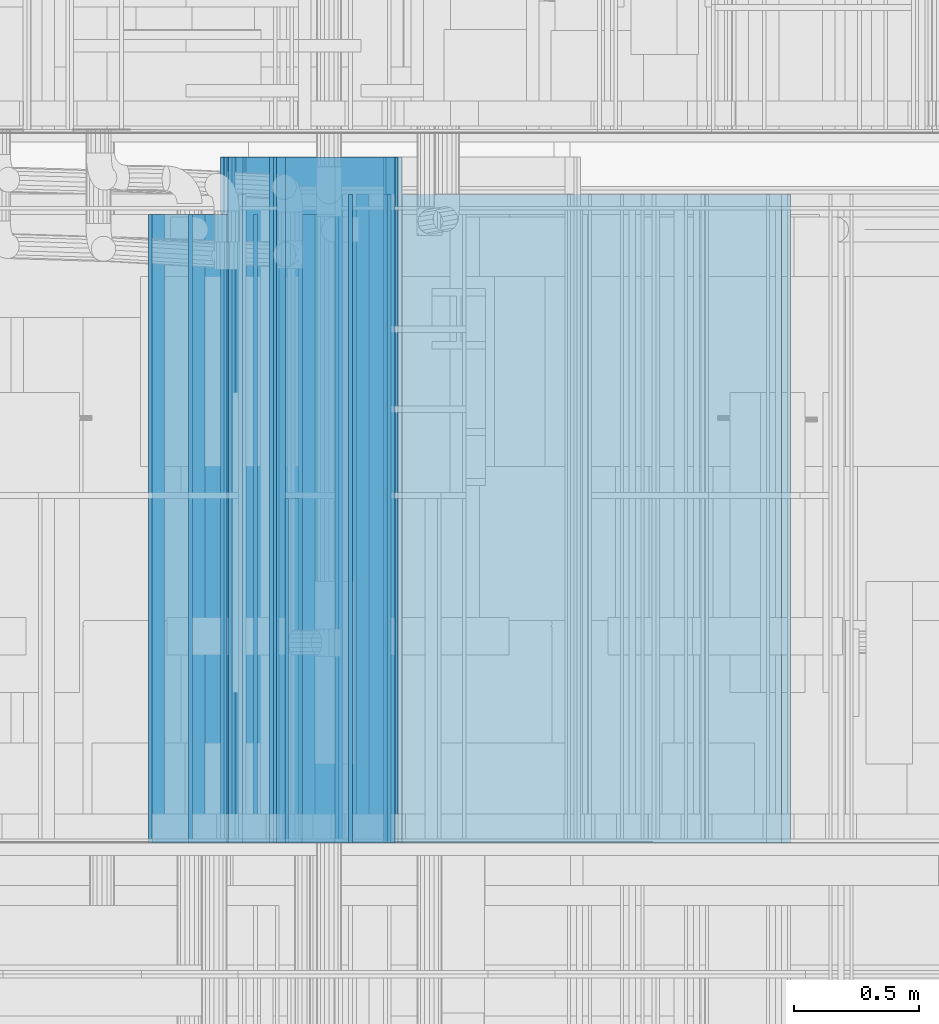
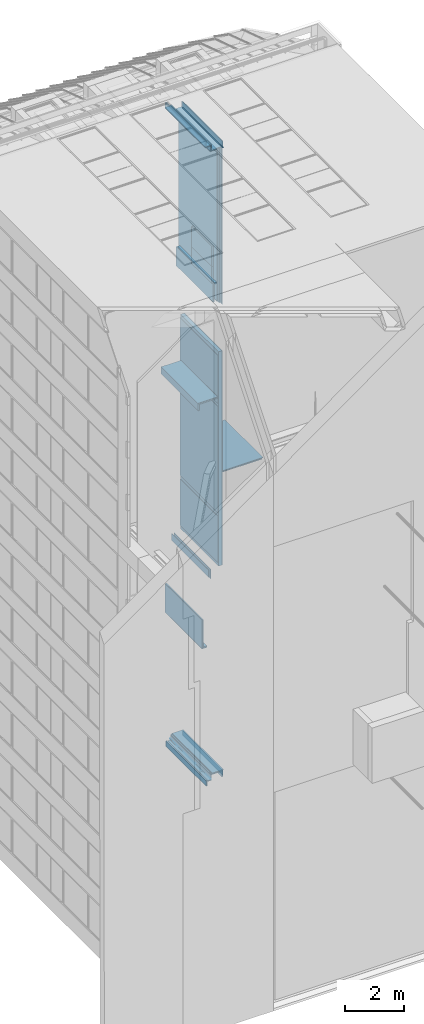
# One storey, part 119 of 583: 60 building element parts, 22 elements without a shape of their own.
"""IFC2X3 building model written with IfcOpenShell, lengths in metres."""

from ifc_helpers import new_model, entity, si_unit, converted_unit, derived_unit, money_unit, direction, frame, frame_2d, origin_with_axes, place, context, subcontext, project, spatial, polyline, rectangle, outline, extrude, material, type_object, element, aggregate, save


model = new_model("IFC2X3")

# Units and contexts
model_context = context("Model", 3, precision=1e-05, world=origin_with_axes(), true_north=direction((0.0, 1.0)))
body_context = subcontext(model_context, "Body", "Model", "MODEL_VIEW", scale=1.0)
ifc_project = project(units=[si_unit("LENGTHUNIT", "METRE"), si_unit("AREAUNIT", "SQUARE_METRE"), si_unit("VOLUMEUNIT", "CUBIC_METRE"), si_unit("ABSORBEDDOSEUNIT", "GRAY"), si_unit("AMOUNTOFSUBSTANCEUNIT", "MOLE"), si_unit("DOSEEQUIVALENTUNIT", "SIEVERT"), si_unit("ELECTRICCAPACITANCEUNIT", "FARAD"), si_unit("ELECTRICCHARGEUNIT", "COULOMB"), si_unit("ELECTRICCONDUCTANCEUNIT", "SIEMENS"), si_unit("ELECTRICCURRENTUNIT", "AMPERE"), si_unit("ELECTRICRESISTANCEUNIT", "OHM"), si_unit("ELECTRICVOLTAGEUNIT", "VOLT"), si_unit("ENERGYUNIT", "JOULE"), si_unit("FORCEUNIT", "NEWTON"), si_unit("FREQUENCYUNIT", "HERTZ"), si_unit("ILLUMINANCEUNIT", "LUX"), si_unit("INDUCTANCEUNIT", "HENRY"), si_unit("LUMINOUSFLUXUNIT", "LUMEN"), si_unit("LUMINOUSINTENSITYUNIT", "CANDELA"), si_unit("MAGNETICFLUXDENSITYUNIT", "TESLA"), si_unit("MAGNETICFLUXUNIT", "WEBER"), si_unit("MASSUNIT", "GRAM"), converted_unit("PLANEANGLEUNIT", "degree", entity("IfcReal", 0.0174532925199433), si_unit("PLANEANGLEUNIT", "RADIAN"), dimensions=[0, 0, 0, 0, 0, 0, 0]), si_unit("POWERUNIT", "WATT"), si_unit("PRESSUREUNIT", "PASCAL"), si_unit("RADIOACTIVITYUNIT", "BECQUEREL"), si_unit("SOLIDANGLEUNIT", "STERADIAN"), si_unit("THERMODYNAMICTEMPERATUREUNIT", "KELVIN"), si_unit("TIMEUNIT", "SECOND"), derived_unit("ACCELERATIONUNIT", [(si_unit("LENGTHUNIT", "METRE"), 1), (si_unit("TIMEUNIT", "SECOND"), -2)]), derived_unit("ANGULARVELOCITYUNIT", [(converted_unit("PLANEANGLEUNIT", "degree", entity("IfcReal", 0.0174532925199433), si_unit("PLANEANGLEUNIT", "RADIAN"), dimensions=[0, 0, 0, 0, 0, 0, 0]), 1), (si_unit("TIMEUNIT", "SECOND"), -1)]), derived_unit("CURVATUREUNIT", [(converted_unit("PLANEANGLEUNIT", "degree", entity("IfcReal", 0.0174532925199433), si_unit("PLANEANGLEUNIT", "RADIAN"), dimensions=[0, 0, 0, 0, 0, 0, 0]), 1), (si_unit("LENGTHUNIT", "METRE"), -1)]), derived_unit("DYNAMICVISCOSITYUNIT", [(si_unit("PRESSUREUNIT", "PASCAL"), 1), (si_unit("TIMEUNIT", "SECOND"), 1)]), derived_unit("HEATFLUXDENSITYUNIT", [(si_unit("POWERUNIT", "WATT"), 1), (si_unit("LENGTHUNIT", "METRE"), -2)]), derived_unit("HEATINGVALUEUNIT", [(si_unit("ENERGYUNIT", "JOULE"), 1), (si_unit("MASSUNIT", "GRAM"), -1)]), derived_unit("INTEGERCOUNTRATEUNIT", [(si_unit("TIMEUNIT", "SECOND"), -1)]), derived_unit("IONCONCENTRATIONUNIT", [(si_unit("MASSUNIT", "GRAM"), 1), (si_unit("VOLUMEUNIT", "CUBIC_METRE"), -1)]), derived_unit("ISOTHERMALMOISTURECAPACITYUNIT", [(si_unit("VOLUMEUNIT", "CUBIC_METRE"), 1), (si_unit("MASSUNIT", "GRAM"), -1)]), derived_unit("KINEMATICVISCOSITYUNIT", [(si_unit("AREAUNIT", "SQUARE_METRE"), 1), (si_unit("TIMEUNIT", "SECOND"), -1)]), derived_unit("LINEARFORCEUNIT", [(si_unit("FORCEUNIT", "NEWTON"), 1), (si_unit("LENGTHUNIT", "METRE"), -1)]), derived_unit("LINEARMOMENTUNIT", [(si_unit("FORCEUNIT", "NEWTON"), 1), (si_unit("LENGTHUNIT", "METRE"), -1)]), derived_unit("LINEARSTIFFNESSUNIT", [(si_unit("FORCEUNIT", "NEWTON"), 1), (si_unit("LENGTHUNIT", "METRE"), -1)]), derived_unit("LINEARVELOCITYUNIT", [(si_unit("LENGTHUNIT", "METRE"), 1), (si_unit("TIMEUNIT", "SECOND"), -1)]), derived_unit("LUMINOUSINTENSITYDISTRIBUTIONUNIT", [(si_unit("LUMINOUSINTENSITYUNIT", "CANDELA"), 1), (si_unit("LUMINOUSFLUXUNIT", "LUMEN"), -1)]), derived_unit("MASSDENSITYUNIT", [(si_unit("MASSUNIT", "GRAM"), 1), (si_unit("VOLUMEUNIT", "CUBIC_METRE"), -1)]), derived_unit("MASSFLOWRATEUNIT", [(si_unit("MASSUNIT", "GRAM"), 1), (si_unit("TIMEUNIT", "SECOND"), -1)]), derived_unit("MASSPERLENGTHUNIT", [(si_unit("MASSUNIT", "GRAM"), 1), (si_unit("LENGTHUNIT", "METRE"), -1)]), derived_unit("MODULUSOFELASTICITYUNIT", [(si_unit("FORCEUNIT", "NEWTON"), 1), (si_unit("AREAUNIT", "SQUARE_METRE"), -1)]), derived_unit("MODULUSOFLINEARSUBGRADEREACTIONUNIT", [(si_unit("FORCEUNIT", "NEWTON"), 1), (si_unit("LENGTHUNIT", "METRE"), -2)]), derived_unit("MODULUSOFROTATIONALSUBGRADEREACTIONUNIT", [(si_unit("FORCEUNIT", "NEWTON"), 1), (si_unit("LENGTHUNIT", "METRE"), 1)]), derived_unit("MODULUSOFSUBGRADEREACTIONUNIT", [(si_unit("FORCEUNIT", "NEWTON"), 1), (si_unit("VOLUMEUNIT", "CUBIC_METRE"), -1)]), derived_unit("MOISTUREDIFFUSIVITYUNIT", [(si_unit("VOLUMEUNIT", "CUBIC_METRE"), 1), (si_unit("TIMEUNIT", "SECOND"), -1)]), derived_unit("MOLECULARWEIGHTUNIT", [(si_unit("MASSUNIT", "GRAM"), 1), (si_unit("AMOUNTOFSUBSTANCEUNIT", "MOLE"), -1)]), derived_unit("PLANARFORCEUNIT", [(si_unit("FORCEUNIT", "NEWTON"), 1), (si_unit("LENGTHUNIT", "METRE"), -2)]), derived_unit("ROTATIONALFREQUENCYUNIT", [(si_unit("TIMEUNIT", "SECOND"), -1)]), derived_unit("ROTATIONALMASSUNIT", [(si_unit("MASSUNIT", "GRAM"), 1), (si_unit("LENGTHUNIT", "METRE"), 2)]), derived_unit("ROTATIONALSTIFFNESSUNIT", [(si_unit("FORCEUNIT", "NEWTON"), 1), (si_unit("LENGTHUNIT", "METRE"), 1), (converted_unit("PLANEANGLEUNIT", "degree", entity("IfcReal", 0.0174532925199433), si_unit("PLANEANGLEUNIT", "RADIAN"), dimensions=[0, 0, 0, 0, 0, 0, 0]), -1)]), derived_unit("SECTIONAREAINTEGRALUNIT", [(si_unit("LENGTHUNIT", "METRE"), 5)]), derived_unit("SECTIONMODULUSUNIT", [(si_unit("LENGTHUNIT", "METRE"), 3)]), derived_unit("SHEARMODULUSUNIT", [(si_unit("FORCEUNIT", "NEWTON"), 1), (si_unit("AREAUNIT", "SQUARE_METRE"), -1)]), derived_unit("SOUNDPOWERUNIT", [(si_unit("ENERGYUNIT", "JOULE"), 1), (si_unit("TIMEUNIT", "SECOND"), -1)]), derived_unit("SPECIFICHEATCAPACITYUNIT", [(si_unit("FORCEUNIT", "NEWTON"), 1), (si_unit("MASSUNIT", "GRAM"), -1), (si_unit("THERMODYNAMICTEMPERATUREUNIT", "KELVIN"), -1)]), derived_unit("TEMPERATUREGRADIENTUNIT", [(si_unit("THERMODYNAMICTEMPERATUREUNIT", "KELVIN"), 1), (si_unit("LENGTHUNIT", "METRE"), -1)]), derived_unit("THERMALADMITTANCEUNIT", [(si_unit("POWERUNIT", "WATT"), 1), (si_unit("AREAUNIT", "SQUARE_METRE"), -1), (si_unit("THERMODYNAMICTEMPERATUREUNIT", "KELVIN"), -1)]), derived_unit("THERMALCONDUCTANCEUNIT", [(si_unit("POWERUNIT", "WATT"), 1), (si_unit("LENGTHUNIT", "METRE"), -1), (si_unit("THERMODYNAMICTEMPERATUREUNIT", "KELVIN"), -1)]), derived_unit("THERMALEXPANSIONCOEFFICIENTUNIT", [(si_unit("THERMODYNAMICTEMPERATUREUNIT", "KELVIN"), -1)]), derived_unit("THERMALRESISTANCEUNIT", [(si_unit("AREAUNIT", "SQUARE_METRE"), 1), (si_unit("POWERUNIT", "WATT"), -1)]), derived_unit("THERMALTRANSMITTANCEUNIT", [(si_unit("POWERUNIT", "WATT"), 1), (si_unit("AREAUNIT", "SQUARE_METRE"), -1), (si_unit("THERMODYNAMICTEMPERATUREUNIT", "KELVIN"), -1)]), derived_unit("TORQUEUNIT", [(si_unit("FORCEUNIT", "NEWTON"), 1), (si_unit("LENGTHUNIT", "METRE"), 1)]), derived_unit("VAPORPERMEABILITYUNIT", [(si_unit("MASSUNIT", "GRAM"), 1), (si_unit("TIMEUNIT", "SECOND"), -1)]), derived_unit("VOLUMETRICFLOWRATEUNIT", [(si_unit("VOLUMEUNIT", "CUBIC_METRE"), 1), (si_unit("TIMEUNIT", "SECOND"), -1)]), derived_unit("WARPINGCONSTANTUNIT", [(si_unit("LENGTHUNIT", "METRE"), 6)]), derived_unit("WARPINGMOMENTUNIT", [(si_unit("FORCEUNIT", "NEWTON"), 1), (si_unit("LENGTHUNIT", "METRE"), 2)]), money_unit("GBP")], contexts=[model_context])

# Site, building, storey
site_placement = place(None, origin_with_axes())
site = spatial("IfcSite", under=ifc_project, at=site_placement, Name="Site", CompositionType="ELEMENT")
building_placement = place(site_placement, origin_with_axes())
building = spatial("IfcBuilding", under=site, at=building_placement, Name="Building01", CompositionType="ELEMENT")
storey_placement = place(building_placement, frame((0.0, 0.0, 20.78), z_axis=(0.0, 0.0, 1.0), x_axis=(1.0, 0.0, 0.0)))
storey = spatial("IfcBuildingStorey", under=building, at=storey_placement, Name="RL", CompositionType="ELEMENT", Elevation=20.78)

# Wall, building element parts
wall_type_1 = type_object("IfcWallType", Name="SHE_A-Walls_Type05a_Partition_95mm_tall", PredefinedType="NOTDEFINED")
wall_1_placement = place(storey_placement, frame((10.38, 12.13, -7.851415), z_axis=(0.0, 1.0, 0.0), x_axis=(-1.0, 0.0, 0.0)))
wall_1 = element("IfcWall", 1, at=wall_1_placement, inside=storey, type_object=wall_type_1, Name="5A", ObjectType="SHE_A-Walls_Type05a_Partition_95mm_tall")
ifc_material_1 = material(Name="A_BSUK_Insulation")
placement_1 = place(wall_1_placement, origin_with_axes())
building_element_part_1 = element("IfcBuildingElementPart", 2, at=placement_1, material=ifc_material_1, Name="1", context=body_context, shape_type="SweptSolid", body=[
    extrude(rectangle(XDim=1.56, YDim=0.025, at=frame_2d((0.78, 0.0125), x_axis=(-1.0, 0.0))), origin_with_axes(), (0.0, 0.0, 1.0), 2.59),
])
ifc_material_2 = material(Name="A_BSUK_WallInternal_Finishes_Plasterboard")
building_element_part_2 = element("IfcBuildingElementPart", 3, at=placement_1, material=ifc_material_2, Name="4", context=body_context, shape_type="SweptSolid", body=[
    extrude(outline(polyline([(1.56, 0.06), (-0.035, 0.06), (-0.023, 0.048), (1.56, 0.048), (1.56, 0.06)])), origin_with_axes(), (0.0, 0.0, 1.0), 2.59),
])
aggregate(wall_1, [building_element_part_1, building_element_part_2])

wall_type_2 = type_object("IfcWallType", Name="SHE_A-Walls_Type05c_PreWallShell_65mm", PredefinedType="NOTDEFINED")
wall_2_placement = place(storey_placement, frame((7.915, 12.13, -4.715), z_axis=(0.0, 1.0, 0.0), x_axis=(1.0, 0.0, 0.0)))
wall_2 = element("IfcWall", 4, at=wall_2_placement, inside=storey, type_object=wall_type_2, Name="5C", ObjectType="SHE_A-Walls_Type05c_PreWallShell_65mm")
ifc_material_3 = material(Name="A_BSUK_OpeningsClearance")
placement_2 = place(wall_2_placement, origin_with_axes())
building_element_part_3 = element("IfcBuildingElementPart", 5, at=placement_2, material=ifc_material_3, Name="1", context=body_context, shape_type="SweptSolid", body=[
    extrude(outline(polyline([(0.75, 0.0), (0.0, 0.0), (-0.05, -0.05), (0.75, -0.05), (0.75, 0.0)])), origin_with_axes(), (0.0, 0.0, 1.0), 2.51),
])
ifc_material_4 = material(Name="A_BSUK_Walls_Timber")
building_element_part_4 = element("IfcBuildingElementPart", 6, at=placement_2, material=ifc_material_4, Name="2", context=body_context, shape_type="SweptSolid", body=[
    extrude(outline(polyline([(0.72, -0.05), (-0.05, -0.05), (-0.065, -0.065), (0.72, -0.065), (0.72, -0.05)])), origin_with_axes(), (0.0, 0.0, 1.0), 2.51),
])
aggregate(wall_2, [building_element_part_3, building_element_part_4])

wall_3_placement = place(storey_placement, frame((7.915, 12.13, -4.965), z_axis=(0.0, 1.0, 0.0), x_axis=(0.0, 0.0, 1.0)))
wall_3 = element("IfcWall", 7, at=wall_3_placement, inside=storey, type_object=wall_type_2, Name="5C", ObjectType="SHE_A-Walls_Type05c_PreWallShell_65mm")
placement_3 = place(wall_3_placement, origin_with_axes())
building_element_part_5 = element("IfcBuildingElementPart", 8, at=placement_3, material=ifc_material_3, Name="1", context=body_context, shape_type="SweptSolid", body=[
    extrude(outline(polyline([(0.25, 0.0), (0.0, 0.0), (0.0, -0.05), (0.3, -0.05), (0.25, 0.0)])), origin_with_axes(), (0.0, 0.0, 1.0), 2.51),
])
building_element_part_6 = element("IfcBuildingElementPart", 9, at=placement_3, material=ifc_material_4, Name="2", context=body_context, shape_type="SweptSolid", body=[
    extrude(outline(polyline([(0.3, -0.05), (0.03, -0.05), (0.03, -0.065), (0.315, -0.065), (0.3, -0.05)])), origin_with_axes(), (0.0, 0.0, 1.0), 2.51),
])
aggregate(wall_3, [building_element_part_5, building_element_part_6])

wall_type_3 = type_object("IfcWallType", Name="SHE_A-Walls_Type01c_Partywall_225mm_twin_tall", PredefinedType="NOTDEFINED")
wall_4_placement = place(storey_placement, frame((8.732, 12.13, 5.664), z_axis=(0.0, 1.0, 0.0), x_axis=(0.0, 0.0, -1.0)))
wall_4 = element("IfcWall", 10, at=wall_4_placement, inside=storey, type_object=wall_type_3, Name="1C", ObjectType="SHE_A-Walls_Type01c_Partywall_225mm_twin_tall")
placement_4 = place(wall_4_placement, origin_with_axes())
building_element_part_7 = element("IfcBuildingElementPart", 11, at=placement_4, material=ifc_material_1, Name="1", context=body_context, shape_type="SweptSolid", body=[
    extrude(outline(polyline([(6.408339, 0.05), (0.0, 0.05), (0.0, 0.0), (6.458339, 0.0), (6.408339, 0.05)])), origin_with_axes(), (0.0, 0.0, 1.0), 2.59),
])
building_element_part_8 = element("IfcBuildingElementPart", 12, at=placement_4, material=ifc_material_2, Name="3", context=body_context, shape_type="SweptSolid", body=[
    extrude(rectangle(XDim=6.309339, YDim=0.015, at=frame_2d((3.166669, 0.1295), x_axis=(-1.0, 0.0))), origin_with_axes(), (0.0, 0.0, 1.0), 2.59),
])
building_element_part_9 = element("IfcBuildingElementPart", 13, at=placement_4, material=ifc_material_2, Name="4", context=body_context, shape_type="SweptSolid", body=[
    extrude(rectangle(XDim=0.015, YDim=6.351339, at=frame_2d((3.175669, 0.1145), x_axis=(0.0, -1.0))), origin_with_axes(), (0.0, 0.0, 1.0), 2.59),
])
building_element_part_10 = element("IfcBuildingElementPart", 14, at=placement_4, material=ifc_material_2, Name="5", context=body_context, shape_type="SweptSolid", body=[
    extrude(rectangle(XDim=6.504339, YDim=0.015, at=frame_2d((3.264169, -0.0655), x_axis=(-1.0, 0.0))), origin_with_axes(), (0.0, 0.0, 1.0), 2.59),
])
building_element_part_11 = element("IfcBuildingElementPart", 15, at=placement_4, material=ifc_material_2, Name="6", context=body_context, shape_type="SweptSolid", body=[
    extrude(rectangle(XDim=6.504339, YDim=0.015, at=frame_2d((3.279169, -0.0805), x_axis=(-1.0, 0.0))), origin_with_axes(), (0.0, 0.0, 1.0), 2.59),
])
aggregate(wall_4, [building_element_part_7, building_element_part_8, building_element_part_9, building_element_part_10, building_element_part_11])

wall_type_4 = type_object("IfcWallType", Name="SHE_A-Walls_Type04c_RiserWall_102mm_tall", PredefinedType="NOTDEFINED")
wall_5_placement = place(storey_placement, frame((8.372405, 12.145, -12.122), z_axis=(0.0, 1.0, 0.0), x_axis=(0.0, 0.0, 1.0)))
wall_5 = element("IfcWall", 16, at=wall_5_placement, inside=storey, type_object=wall_type_4, Name="4C", ObjectType="SHE_A-Walls_Type04c_RiserWall_102mm_tall")
placement_5 = place(wall_5_placement, origin_with_axes())
building_element_part_12 = element("IfcBuildingElementPart", 17, at=placement_5, material=ifc_material_2, Name="2", context=body_context, shape_type="SweptSolid", body=[
    extrude(rectangle(XDim=0.402, YDim=0.015, at=frame_2d((0.201, -0.0075), x_axis=(-1.0, 0.0))), frame((0.0, 0.0, -0.015), z_axis=(0.0, 0.0, 1.0), x_axis=(1.0, 0.0, 0.0)), (0.0, 0.0, 1.0), 2.51),
])
building_element_part_13 = element("IfcBuildingElementPart", 18, at=placement_5, material=ifc_material_2, Name="3", context=body_context, shape_type="SweptSolid", body=[
    extrude(outline(polyline([(0.402, -0.087), (0.087, -0.087), (0.102, -0.102), (0.402, -0.102), (0.402, -0.087)])), frame((0.0, 0.0, -0.015), z_axis=(0.0, 0.0, 1.0), x_axis=(1.0, 0.0, 0.0)), (0.0, 0.0, 1.0), 2.51),
])
aggregate(wall_5, [building_element_part_12, building_element_part_13])

wall_type_5 = type_object("IfcWallType", Name="SHE_A-Walls_Type03a_BlockworkWall_170mm", PredefinedType="NOTDEFINED")
wall_6_placement = place(storey_placement, frame((8.805, 12.13, -2.795), z_axis=(0.0, 1.0, 0.0), x_axis=(0.0, 0.0, -1.0)))
wall_6 = element("IfcWall", 19, at=wall_6_placement, inside=storey, type_object=wall_type_5, Name="4B", ObjectType="SHE_A-Walls_Type03a_BlockworkWall_170mm")
ifc_material_5 = material(Name="A_BSUK_WallsInternal_Block")
placement_6 = place(wall_6_placement, origin_with_axes())
building_element_part_14 = element("IfcBuildingElementPart", 20, at=placement_6, material=ifc_material_5, Name="1", context=body_context, shape_type="SweptSolid", body=[
    extrude(rectangle(XDim=8.91, YDim=0.14, at=frame_2d((4.455, 0.07), x_axis=(-1.0, 0.0))), origin_with_axes(), (0.0, 0.0, 1.0), 2.59),
])
ifc_material_6 = material(Name="A_BSUK_WallInternal_Finishes_Plaster")
building_element_part_15 = element("IfcBuildingElementPart", 21, at=placement_6, material=ifc_material_6, Name="3", context=body_context, shape_type="SweptSolid", body=[
    extrude(rectangle(XDim=2.0, YDim=0.015, at=frame_2d((1.155, 0.1475), x_axis=(-1.0, 0.0))), origin_with_axes(), (0.0, 0.0, 1.0), 2.59),
])
building_element_part_16 = element("IfcBuildingElementPart", 22, at=placement_6, material=ifc_material_2, Name="4", context=body_context, shape_type="SweptSolid", body=[
    extrude(rectangle(XDim=8.91, YDim=0.015, at=frame_2d((4.455, -0.0075), x_axis=(-1.0, 0.0))), origin_with_axes(), (0.0, 0.0, 1.0), 2.59),
])
building_element_part_17 = element("IfcBuildingElementPart", 23, at=placement_6, material=ifc_material_6, Name="6", context=body_context, shape_type="SweptSolid", body=[
    extrude(rectangle(XDim=1.93, YDim=0.015, at=frame_2d((7.805, 0.1475), x_axis=(-1.0, 0.0))), origin_with_axes(), (0.0, 0.0, 1.0), 2.59),
])
building_element_part_18 = element("IfcBuildingElementPart", 24, at=placement_6, material=ifc_material_6, Name="7", context=body_context, shape_type="SweptSolid", body=[
    extrude(rectangle(XDim=4.43, YDim=0.015, at=frame_2d((4.485, 0.1475), x_axis=(-1.0, 0.0))), origin_with_axes(), (0.0, 0.0, 1.0), 2.59),
])
aggregate(wall_6, [building_element_part_14, building_element_part_15, building_element_part_16, building_element_part_17, building_element_part_18])

wall_7_placement = place(storey_placement, frame((8.515, 12.13, 0.127661), z_axis=(0.0, 1.0, 0.0), x_axis=(0.0, 0.0, -1.0)))
wall_7 = element("IfcWall", 25, at=wall_7_placement, inside=storey, type_object=wall_type_2, Name="5C", ObjectType="SHE_A-Walls_Type05c_PreWallShell_65mm")
placement_7 = place(wall_7_placement, origin_with_axes())
building_element_part_19 = element("IfcBuildingElementPart", 26, at=placement_7, material=ifc_material_3, Name="1", context=body_context, shape_type="SweptSolid", body=[
    extrude(rectangle(XDim=0.785, YDim=0.05, at=frame_2d((0.3925, 0.025), x_axis=(-1.0, 0.0))), origin_with_axes(), (0.0, 0.0, 1.0), 2.51),
])
building_element_part_20 = element("IfcBuildingElementPart", 27, at=placement_7, material=ifc_material_4, Name="2", context=body_context, shape_type="SweptSolid", body=[
    extrude(rectangle(XDim=0.8, YDim=0.015, at=frame_2d((0.385, 0.0575), x_axis=(-1.0, 0.0))), origin_with_axes(), (0.0, 0.0, 1.0), 2.51),
])
aggregate(wall_7, [building_element_part_19, building_element_part_20])

wall_8_placement = place(storey_placement, frame((8.595, 12.13, 0.077661), z_axis=(0.0, 1.0, 0.0), x_axis=(-1.0, 0.0, 0.0)))
wall_8 = element("IfcWall", 28, at=wall_8_placement, inside=storey, type_object=wall_type_2, Name="5C", ObjectType="SHE_A-Walls_Type05c_PreWallShell_65mm")
placement_8 = place(wall_8_placement, origin_with_axes())
building_element_part_21 = element("IfcBuildingElementPart", 29, at=placement_8, material=ifc_material_3, Name="1", context=body_context, shape_type="SweptSolid", body=[
    extrude(rectangle(XDim=0.08, YDim=0.05, at=frame_2d((0.04, 0.025), x_axis=(-1.0, 0.0))), origin_with_axes(), (0.0, 0.0, 1.0), 2.51),
])
building_element_part_22 = element("IfcBuildingElementPart", 30, at=placement_8, material=ifc_material_4, Name="2", context=body_context, shape_type="SweptSolid", body=[
    extrude(rectangle(XDim=0.13, YDim=0.015, at=frame_2d((0.065, 0.0575), x_axis=(-1.0, 0.0))), origin_with_axes(), (0.0, 0.0, 1.0), 2.51),
])
aggregate(wall_8, [building_element_part_21, building_element_part_22])

wall_9_placement = place(storey_placement, frame((8.460003, 12.13, 0.846659), z_axis=(0.0, 1.0, 0.0), x_axis=(0.0, 0.0, -1.0)))
wall_9 = element("IfcWall", 31, at=wall_9_placement, inside=storey, type_object=wall_type_2, Name="5C", ObjectType="SHE_A-Walls_Type05c_PreWallShell_65mm")
placement_9 = place(wall_9_placement, origin_with_axes())
building_element_part_23 = element("IfcBuildingElementPart", 32, at=placement_9, material=ifc_material_3, Name="1", context=body_context, shape_type="SweptSolid", body=[
    extrude(rectangle(XDim=0.703998, YDim=0.05, at=frame_2d((0.351999, 0.025), x_axis=(-1.0, 0.0))), origin_with_axes(), (0.0, 0.0, 1.0), 1.375),
])
building_element_part_24 = element("IfcBuildingElementPart", 33, at=placement_9, material=ifc_material_4, Name="2", context=body_context, shape_type="SweptSolid", body=[
    extrude(rectangle(XDim=0.703998, YDim=0.015, at=frame_2d((0.351999, 0.0575), x_axis=(1.0, 0.0))), origin_with_axes(), (0.0, 0.0, 1.0), 1.375),
])
aggregate(wall_9, [building_element_part_23, building_element_part_24])

wall_10_placement = place(storey_placement, frame((8.46, 12.13, 1.681661), z_axis=(0.0, 1.0, 0.0), x_axis=(0.0, 0.0, -1.0)))
wall_10 = element("IfcWall", 34, at=wall_10_placement, inside=storey, type_object=wall_type_2, Name="5C", ObjectType="SHE_A-Walls_Type05c_PreWallShell_65mm")
placement_10 = place(wall_10_placement, origin_with_axes())
building_element_part_25 = element("IfcBuildingElementPart", 35, at=placement_10, material=ifc_material_3, Name="1", context=body_context, shape_type="SweptSolid", body=[
    extrude(rectangle(XDim=0.05, YDim=0.835002, at=frame_2d((0.417501, 0.025), x_axis=(0.0, -1.0))), origin_with_axes(), (0.0, 0.0, 1.0), 1.375),
])
building_element_part_26 = element("IfcBuildingElementPart", 36, at=placement_10, material=ifc_material_4, Name="2", context=body_context, shape_type="SweptSolid", body=[
    extrude(rectangle(XDim=0.015, YDim=0.835002, at=frame_2d((0.417501, 0.0575), x_axis=(0.0, -1.0))), origin_with_axes(), (0.0, 0.0, 1.0), 1.375),
])
aggregate(wall_10, [building_element_part_25, building_element_part_26])

wall_11_placement = place(storey_placement, frame((8.21067, 12.13, -14.850331), z_axis=(0.0, 1.0, 0.0), x_axis=(-1.0, 0.0, 0.0)))
wall_11 = element("IfcWall", 37, at=wall_11_placement, inside=storey, type_object=wall_type_2, Name="5C", ObjectType="SHE_A-Walls_Type05c_PreWallShell_65mm")
placement_11 = place(wall_11_placement, origin_with_axes())
building_element_part_27 = element("IfcBuildingElementPart", 38, at=placement_11, material=ifc_material_3, Name="1", context=body_context, shape_type="SweptSolid", body=[
    extrude(rectangle(XDim=0.185, YDim=0.05, at=frame_2d((0.0925, -0.025), x_axis=(-1.0, 0.0))), origin_with_axes(), (0.0, 0.0, 1.0), 2.51),
])
building_element_part_28 = element("IfcBuildingElementPart", 39, at=placement_11, material=ifc_material_4, Name="2", context=body_context, shape_type="SweptSolid", body=[
    extrude(rectangle(XDim=0.2, YDim=0.015, at=frame_2d((0.1, -0.0575), x_axis=(-1.0, 0.0))), origin_with_axes(), (0.0, 0.0, 1.0), 2.51),
])
aggregate(wall_11, [building_element_part_27, building_element_part_28])

wall_12_placement = place(storey_placement, frame((8.07567, 12.13, -14.850331), z_axis=(0.0, 1.0, 0.0), x_axis=(0.0, 0.0, 1.0)))
wall_12 = element("IfcWall", 40, at=wall_12_placement, inside=storey, type_object=wall_type_2, Name="5C", ObjectType="SHE_A-Walls_Type05c_PreWallShell_65mm")
placement_12 = place(wall_12_placement, origin_with_axes())
building_element_part_29 = element("IfcBuildingElementPart", 41, at=placement_12, material=ifc_material_3, Name="1", context=body_context, shape_type="SweptSolid", body=[
    extrude(rectangle(XDim=1.135, YDim=0.05, at=frame_2d((0.5675, -0.025), x_axis=(-1.0, 0.0))), origin_with_axes(), (0.0, 0.0, 1.0), 2.51),
])
building_element_part_30 = element("IfcBuildingElementPart", 42, at=placement_12, material=ifc_material_4, Name="2", context=body_context, shape_type="SweptSolid", body=[
    extrude(rectangle(XDim=1.185, YDim=0.015, at=frame_2d((0.5425, -0.0575), x_axis=(-1.0, 0.0))), origin_with_axes(), (0.0, 0.0, 1.0), 2.51),
])
aggregate(wall_12, [building_element_part_29, building_element_part_30])

wall_type_6 = type_object("IfcWallType", Name="SHE_A-Walls_Type06f_ExternalWallInsulation_48+15mm", PredefinedType="NOTDEFINED")
wall_13_placement = place(storey_placement, frame((8.361548, 12.13, -20.280822), z_axis=(0.0, 1.0, 0.0), x_axis=(1.0, 0.0, 0.0)))
wall_13 = element("IfcWall", 43, at=wall_13_placement, inside=storey, type_object=wall_type_6, Name="6F", ObjectType="SHE_A-Walls_Type06f_ExternalWallInsulation_48+15mm")
placement_13 = place(wall_13_placement, origin_with_axes())
building_element_part_31 = element("IfcBuildingElementPart", 44, at=placement_13, material=ifc_material_1, Name="1", context=body_context, shape_type="SweptSolid", body=[
    extrude(rectangle(XDim=0.474452, YDim=0.036, at=frame_2d((0.237226, -0.018), x_axis=(-1.0, 0.0))), origin_with_axes(), (0.0, 0.0, 1.0), 2.74),
])
building_element_part_32 = element("IfcBuildingElementPart", 45, at=placement_13, material=ifc_material_2, Name="3", context=body_context, shape_type="SweptSolid", body=[
    extrude(outline(polyline([(0.486452, -0.048), (0.059121, -0.048), (0.059121, -0.063), (0.501452, -0.063), (0.486452, -0.048)])), origin_with_axes(), (0.0, 0.0, 1.0), 2.74),
])
building_element_part_33 = element("IfcBuildingElementPart", 46, at=placement_13, material=ifc_material_2, Name="4", context=body_context, shape_type="SweptSolid", body=[
    extrude(rectangle(XDim=0.44233, YDim=0.012, at=frame_2d((0.265287, -0.042), x_axis=(-1.0, 0.0))), origin_with_axes(), (0.0, 0.0, 1.0), 2.74),
])
aggregate(wall_13, [building_element_part_31, building_element_part_32, building_element_part_33])

wall_14_placement = place(storey_placement, frame((8.8, 12.13, -20.51), z_axis=(0.0, 1.0, 0.0), x_axis=(0.0, 0.0, 1.0)))
wall_14 = element("IfcWall", 47, at=wall_14_placement, inside=storey, type_object=wall_type_6, Name="6F", ObjectType="SHE_A-Walls_Type06f_ExternalWallInsulation_48+15mm")
placement_14 = place(wall_14_placement, origin_with_axes())
building_element_part_34 = element("IfcBuildingElementPart", 48, at=placement_14, material=ifc_material_1, Name="1", context=body_context, shape_type="SweptSolid", body=[
    extrude(rectangle(XDim=0.229178, YDim=0.036, at=frame_2d((0.114589, 0.018), x_axis=(-1.0, 0.0))), origin_with_axes(), (0.0, 0.0, 1.0), 2.74),
])
building_element_part_35 = element("IfcBuildingElementPart", 49, at=placement_14, material=ifc_material_2, Name="4", context=body_context, shape_type="SweptSolid", body=[
    extrude(rectangle(XDim=0.217178, YDim=0.012, at=frame_2d((0.156589, 0.042), x_axis=(-1.0, 0.0))), origin_with_axes(), (0.0, 0.0, 1.0), 2.74),
])
aggregate(wall_14, [building_element_part_34, building_element_part_35])

wall_15_placement = place(storey_placement, frame((8.397548, 12.13, -20.474), z_axis=(0.0, 1.0, 0.0), x_axis=(0.0, 0.0, 1.0)))
wall_15 = element("IfcWall", 50, at=wall_15_placement, inside=storey, type_object=wall_type_6, Name="6F", ObjectType="SHE_A-Walls_Type06f_ExternalWallInsulation_48+15mm")
placement_15 = place(wall_15_placement, origin_with_axes())
building_element_part_36 = element("IfcBuildingElementPart", 51, at=placement_15, material=ifc_material_1, Name="1", context=body_context, shape_type="SweptSolid", body=[
    extrude(rectangle(XDim=0.193178, YDim=0.036, at=frame_2d((0.096589, -0.018), x_axis=(-1.0, 0.0))), origin_with_axes(), (0.0, 0.0, 1.0), 2.74),
])
building_element_part_37 = element("IfcBuildingElementPart", 52, at=placement_15, material=ifc_material_2, Name="3", context=body_context, shape_type="SweptSolid", body=[
    extrude(rectangle(XDim=0.015, YDim=0.028562, at=frame_2d((0.041281, -0.0555), x_axis=(0.0, -1.0))), origin_with_axes(), (0.0, 0.0, 1.0), 2.74),
])
building_element_part_38 = element("IfcBuildingElementPart", 53, at=placement_15, material=ifc_material_2, Name="4", context=body_context, shape_type="SweptSolid", body=[
    extrude(rectangle(XDim=0.013562, YDim=0.012, at=frame_2d((0.048781, -0.042), x_axis=(1.0, 0.0))), origin_with_axes(), (0.0, 0.0, 1.0), 2.74),
])
aggregate(wall_15, [building_element_part_36, building_element_part_37, building_element_part_38])

wall_16_placement = place(storey_placement, frame((8.233, 12.13, -20.68), z_axis=(0.0, 1.0, 0.0), x_axis=(0.0, 0.0, 1.0)))
wall_16 = element("IfcWall", 54, at=wall_16_placement, inside=storey, type_object=wall_type_6, Name="6F", ObjectType="SHE_A-Walls_Type06f_ExternalWallInsulation_48+15mm")
placement_16 = place(wall_16_placement, origin_with_axes())
building_element_part_39 = element("IfcBuildingElementPart", 55, at=placement_16, material=ifc_material_1, Name="1", context=body_context, shape_type="SweptSolid", body=[
    extrude(rectangle(XDim=0.206, YDim=0.036, at=frame_2d((0.103, -0.018), x_axis=(-1.0, 0.0))), origin_with_axes(), (0.0, 0.0, 1.0), 2.74),
])
building_element_part_40 = element("IfcBuildingElementPart", 56, at=placement_16, material=ifc_material_2, Name="3", context=body_context, shape_type="SweptSolid", body=[
    extrude(outline(polyline([(0.218, -0.048), (0.0, -0.048), (0.0, -0.063), (0.233, -0.063), (0.218, -0.048)])), origin_with_axes(), (0.0, 0.0, 1.0), 2.74),
])
building_element_part_41 = element("IfcBuildingElementPart", 57, at=placement_16, material=ifc_material_2, Name="4", context=body_context, shape_type="SweptSolid", body=[
    extrude(rectangle(XDim=0.218, YDim=0.012, at=frame_2d((0.109, -0.042), x_axis=(-1.0, 0.0))), origin_with_axes(), (0.0, 0.0, 1.0), 2.74),
])
aggregate(wall_16, [building_element_part_39, building_element_part_40, building_element_part_41])

wall_17_placement = place(storey_placement, frame((8.233, 12.13, -20.51), z_axis=(0.0, 1.0, 0.0), x_axis=(1.0, 0.0, 0.0)))
wall_17 = element("IfcWall", 58, at=wall_17_placement, inside=storey, type_object=wall_type_6, Name="6F", ObjectType="SHE_A-Walls_Type06f_ExternalWallInsulation_48+15mm")
placement_17 = place(wall_17_placement, origin_with_axes())
building_element_part_42 = element("IfcBuildingElementPart", 59, at=placement_17, material=ifc_material_1, Name="1", context=body_context, shape_type="SweptSolid", body=[
    extrude(rectangle(XDim=0.164548, YDim=0.036, at=frame_2d((0.082274, -0.018), x_axis=(-1.0, 0.0))), origin_with_axes(), (0.0, 0.0, 1.0), 2.74),
])
building_element_part_43 = element("IfcBuildingElementPart", 60, at=placement_17, material=ifc_material_2, Name="3", context=body_context, shape_type="SweptSolid", body=[
    extrude(outline(polyline([(-0.048, -0.048), (-0.063, -0.063), (-0.007733, -0.063), (-0.007733, -0.048), (-0.048, -0.048)])), origin_with_axes(), (0.0, 0.0, 1.0), 2.74),
])
building_element_part_44 = element("IfcBuildingElementPart", 61, at=placement_17, material=ifc_material_2, Name="4", context=body_context, shape_type="SweptSolid", body=[
    extrude(rectangle(XDim=0.012, YDim=0.04367, at=frame_2d((-0.014165, -0.042), x_axis=(0.0, -1.0))), origin_with_axes(), (0.0, 0.0, 1.0), 2.74),
])
aggregate(wall_17, [building_element_part_42, building_element_part_43, building_element_part_44])

wall_18_placement = place(storey_placement, frame((8.8, 12.13, 5.929178), z_axis=(0.0, 1.0, 0.0), x_axis=(0.0, 0.0, 1.0)))
wall_18 = element("IfcWall", 62, at=wall_18_placement, inside=storey, type_object=wall_type_6, Name="6F", ObjectType="SHE_A-Walls_Type06f_ExternalWallInsulation_48+15mm")
placement_18 = place(wall_18_placement, origin_with_axes())
building_element_part_45 = element("IfcBuildingElementPart", 63, at=placement_18, material=ifc_material_1, Name="1", context=body_context, shape_type="SweptSolid", body=[
    extrude(rectangle(XDim=0.229178, YDim=0.036, at=frame_2d((-0.114589, 0.018), x_axis=(1.0, 0.0))), origin_with_axes(), (0.0, 0.0, 1.0), 2.74),
])
building_element_part_46 = element("IfcBuildingElementPart", 64, at=placement_18, material=ifc_material_2, Name="4", context=body_context, shape_type="SweptSolid", body=[
    extrude(rectangle(XDim=0.217178, YDim=0.012, at=frame_2d((-0.156589, 0.042), x_axis=(1.0, 0.0))), origin_with_axes(), (0.0, 0.0, 1.0), 2.74),
])
aggregate(wall_18, [building_element_part_45, building_element_part_46])

wall_19_placement = place(storey_placement, frame((8.397548, 12.13, 5.893178), z_axis=(0.0, 1.0, 0.0), x_axis=(0.0, 0.0, 1.0)))
wall_19 = element("IfcWall", 65, at=wall_19_placement, inside=storey, type_object=wall_type_6, Name="6F", ObjectType="SHE_A-Walls_Type06f_ExternalWallInsulation_48+15mm")
placement_19 = place(wall_19_placement, origin_with_axes())
building_element_part_47 = element("IfcBuildingElementPart", 66, at=placement_19, material=ifc_material_1, Name="1", context=body_context, shape_type="SweptSolid", body=[
    extrude(rectangle(XDim=0.193178, YDim=0.036, at=frame_2d((-0.096589, -0.018), x_axis=(1.0, 0.0))), origin_with_axes(), (0.0, 0.0, 1.0), 2.74),
])
building_element_part_48 = element("IfcBuildingElementPart", 67, at=placement_19, material=ifc_material_2, Name="3", context=body_context, shape_type="SweptSolid", body=[
    extrude(outline(polyline([(-0.256178, -0.063), (-0.027, -0.063), (-0.027, -0.048), (-0.241178, -0.048), (-0.256178, -0.063)])), origin_with_axes(), (0.0, 0.0, 1.0), 2.74),
])
building_element_part_49 = element("IfcBuildingElementPart", 68, at=placement_19, material=ifc_material_2, Name="4", context=body_context, shape_type="SweptSolid", body=[
    extrude(rectangle(XDim=0.217178, YDim=0.012, at=frame_2d((-0.120589, -0.042), x_axis=(1.0, 0.0))), origin_with_axes(), (0.0, 0.0, 1.0), 2.74),
])
aggregate(wall_19, [building_element_part_47, building_element_part_48, building_element_part_49])

wall_20_placement = place(storey_placement, frame((8.200326, 12.13, 6.099178), z_axis=(0.0, 1.0, 0.0), x_axis=(0.0, 0.0, -1.0)))
wall_20 = element("IfcWall", 69, at=wall_20_placement, inside=storey, type_object=wall_type_6, Name="6F", ObjectType="SHE_A-Walls_Type06f_ExternalWallInsulation_48+15mm")
placement_20 = place(wall_20_placement, origin_with_axes())
building_element_part_50 = element("IfcBuildingElementPart", 70, at=placement_20, material=ifc_material_1, Name="1", context=body_context, shape_type="SweptSolid", body=[
    extrude(rectangle(XDim=0.17, YDim=0.036, at=frame_2d((0.085, 0.018), x_axis=(-1.0, 0.0))), origin_with_axes(), (0.0, 0.0, 1.0), 2.74),
])
building_element_part_51 = element("IfcBuildingElementPart", 71, at=placement_20, material=ifc_material_2, Name="3", context=body_context, shape_type="SweptSolid", body=[
    extrude(outline(polyline([(0.233, 0.063), (0.0, 0.063), (0.0, 0.048), (0.218, 0.048), (0.233, 0.063)])), origin_with_axes(), (0.0, 0.0, 1.0), 2.74),
])
building_element_part_52 = element("IfcBuildingElementPart", 72, at=placement_20, material=ifc_material_2, Name="4", context=body_context, shape_type="SweptSolid", body=[
    extrude(rectangle(XDim=0.206, YDim=0.012, at=frame_2d((0.103, 0.042), x_axis=(-1.0, 0.0))), origin_with_axes(), (0.0, 0.0, 1.0), 2.74),
])
aggregate(wall_20, [building_element_part_50, building_element_part_51, building_element_part_52])

wall_21_placement = place(storey_placement, frame((8.164326, 12.13, 5.929178), z_axis=(0.0, 1.0, 0.0), x_axis=(1.0, 0.0, 0.0)))
wall_21 = element("IfcWall", 73, at=wall_21_placement, inside=storey, type_object=wall_type_6, Name="6F", ObjectType="SHE_A-Walls_Type06f_ExternalWallInsulation_48+15mm")
placement_21 = place(wall_21_placement, origin_with_axes())
building_element_part_53 = element("IfcBuildingElementPart", 74, at=placement_21, material=ifc_material_1, Name="1", context=body_context, shape_type="SweptSolid", body=[
    extrude(rectangle(XDim=0.233222, YDim=0.036, at=frame_2d((0.116611, 0.018), x_axis=(-1.0, 0.0))), origin_with_axes(), (0.0, 0.0, 1.0), 2.74),
])
building_element_part_54 = element("IfcBuildingElementPart", 75, at=placement_21, material=ifc_material_2, Name="3", context=body_context, shape_type="SweptSolid", body=[
    extrude(outline(polyline([(0.185222, 0.063), (-0.027, 0.063), (-0.012, 0.048), (0.185222, 0.048), (0.185222, 0.063)])), origin_with_axes(), (0.0, 0.0, 1.0), 2.74),
])
building_element_part_55 = element("IfcBuildingElementPart", 76, at=placement_21, material=ifc_material_2, Name="4", context=body_context, shape_type="SweptSolid", body=[
    extrude(rectangle(XDim=0.209222, YDim=0.012, at=frame_2d((0.092611, 0.042), x_axis=(-1.0, 0.0))), origin_with_axes(), (0.0, 0.0, 1.0), 2.74),
])
aggregate(wall_21, [building_element_part_53, building_element_part_54, building_element_part_55])

wall_22_placement = place(storey_placement, frame((8.361548, 12.13, 5.7), z_axis=(0.0, 1.0, 0.0), x_axis=(1.0, 0.0, 0.0)))
wall_22 = element("IfcWall", 77, at=wall_22_placement, inside=storey, type_object=wall_type_6, Name="6F", ObjectType="SHE_A-Walls_Type06f_ExternalWallInsulation_48+15mm")
placement_22 = place(wall_22_placement, origin_with_axes())
building_element_part_56 = element("IfcBuildingElementPart", 78, at=placement_22, material=ifc_material_1, Name="1", context=body_context, shape_type="SweptSolid", body=[
    extrude(rectangle(XDim=0.474452, YDim=0.036, at=frame_2d((0.237226, 0.018), x_axis=(-1.0, 0.0))), origin_with_axes(), (0.0, 0.0, 1.0), 2.74),
])
building_element_part_57 = element("IfcBuildingElementPart", 79, at=placement_22, material=ifc_material_2, Name="3", context=body_context, shape_type="SweptSolid", body=[
    extrude(outline(polyline([(0.233452, 0.063), (-0.027, 0.063), (-0.012, 0.048), (0.233452, 0.048), (0.233452, 0.063)])), origin_with_axes(), (0.0, 0.0, 1.0), 2.74),
])
building_element_part_58 = element("IfcBuildingElementPart", 80, at=placement_22, material=ifc_material_2, Name="5", context=body_context, shape_type="SweptSolid", body=[
    extrude(outline(polyline([(0.501452, 0.063), (0.443452, 0.063), (0.443452, 0.048), (0.486452, 0.048), (0.501452, 0.063)])), origin_with_axes(), (0.0, 0.0, 1.0), 2.74),
])
building_element_part_59 = element("IfcBuildingElementPart", 81, at=placement_22, material=ifc_material_2, Name="6", context=body_context, shape_type="SweptSolid", body=[
    extrude(rectangle(XDim=0.260452, YDim=0.012, at=frame_2d((0.118226, 0.042), x_axis=(-1.0, 0.0))), origin_with_axes(), (0.0, 0.0, 1.0), 2.74),
])
building_element_part_60 = element("IfcBuildingElementPart", 82, at=placement_22, material=ifc_material_2, Name="7", context=body_context, shape_type="SweptSolid", body=[
    extrude(rectangle(XDim=0.058, YDim=0.012, at=frame_2d((0.457452, 0.042), x_axis=(-1.0, 0.0))), origin_with_axes(), (0.0, 0.0, 1.0), 2.74),
])
aggregate(wall_22, [building_element_part_56, building_element_part_57, building_element_part_58, building_element_part_59, building_element_part_60])

save(model, "model.ifc")
